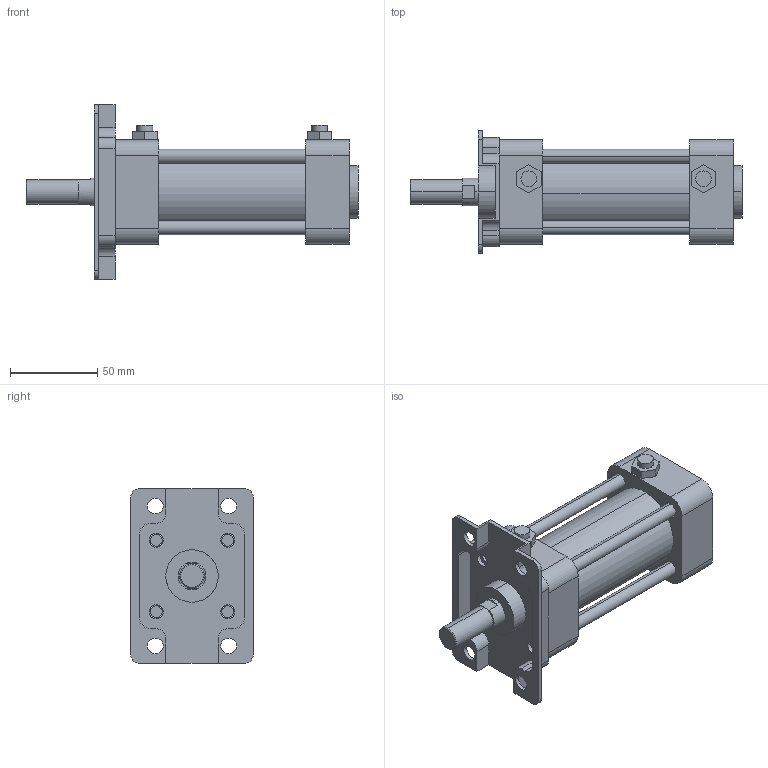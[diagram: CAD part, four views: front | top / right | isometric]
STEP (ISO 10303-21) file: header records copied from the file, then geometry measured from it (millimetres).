
FILE_DESCRIPTION (( 'STEP AP203' ), '1' );
FILE_NAME ('KG2-40-50-A.STEP', '2016-04-01T08:07:19', ( '' ), ( '' ), 'SwSTEP 2.0', 'SolidWorks 2014', '' );
FILE_SCHEMA (( 'CONFIG_CONTROL_DESIGN' ));
Length unit declared in the file: millimetre
Products named in the file (7): K-40-AB; KG2-40-50-A; KGLH2-40-50; KG2-40-After
Assembly tree (16 placements, depth 2):
  KG2-40-50-A
    KG2-40-After
    KGLH2-40-50
    (unnamed)
    (unnamed)  x4
    (unnamed)  x8
    K-40-AB
Bounding box: 190 x 70 x 100 mm (x, y, z)
Volume: 321251.4 mm3; surface area: 102014 mm2
Topology: 16 solids, 21 shells, 397 faces, 955 edges, 615 vertices
Faces by surface type: plane 171, cylinder 168, torus 32, cone 26
Entity records: 10584 total; most frequent: CARTESIAN_POINT 2011, DIRECTION 1647, ORIENTED_EDGE 1530, EDGE_CURVE 765, AXIS2_PLACEMENT_3D 606, VERTEX_POINT 505, LINE 435, VECTOR 435
